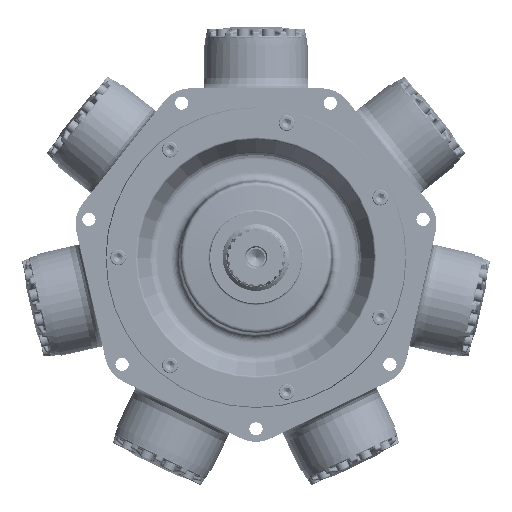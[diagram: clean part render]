
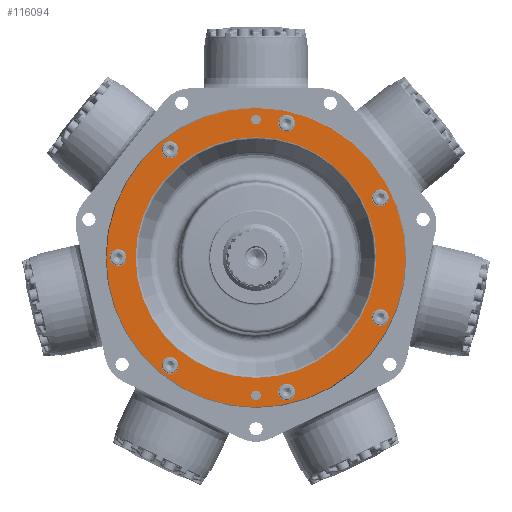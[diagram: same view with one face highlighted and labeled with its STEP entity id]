
A CAD part, top view. The second image highlights one B-rep face of the part: STEP entity #116094.
In plain terms, the highlighted planar face has unit normal (0, 0, 1).
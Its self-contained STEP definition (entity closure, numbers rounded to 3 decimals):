
#1834=FACE_BOUND('',#33305,.T.);
#1835=FACE_BOUND('',#33306,.T.);
#1836=FACE_BOUND('',#33307,.T.);
#1837=FACE_BOUND('',#33308,.T.);
#1838=FACE_BOUND('',#33309,.T.);
#1839=FACE_BOUND('',#33310,.T.);
#1840=FACE_BOUND('',#33311,.T.);
#1841=FACE_BOUND('',#33312,.T.);
#1842=FACE_BOUND('',#33313,.T.);
#1843=FACE_BOUND('',#33314,.T.);
#16722=PLANE('',#124275);
#20447=CIRCLE('',#124248,7.176);
#20449=CIRCLE('',#124251,7.176);
#20451=CIRCLE('',#124254,12.7);
#20453=CIRCLE('',#124257,12.7);
#20454=CIRCLE('',#124259,12.7);
#20456=CIRCLE('',#124262,12.7);
#20457=CIRCLE('',#124264,12.7);
#20458=CIRCLE('',#124266,12.7);
#20460=CIRCLE('',#124269,12.7);
#20461=CIRCLE('',#124271,227.279);
#20464=CIRCLE('',#124276,182.808);
#26218=FACE_OUTER_BOUND('',#33304,.T.);
#33304=EDGE_LOOP('',(#90139));
#33305=EDGE_LOOP('',(#90140));
#33306=EDGE_LOOP('',(#90141));
#33307=EDGE_LOOP('',(#90142));
#33308=EDGE_LOOP('',(#90143));
#33309=EDGE_LOOP('',(#90144));
#33310=EDGE_LOOP('',(#90145));
#33311=EDGE_LOOP('',(#90146));
#33312=EDGE_LOOP('',(#90147));
#33313=EDGE_LOOP('',(#90148));
#33314=EDGE_LOOP('',(#90149));
#47952=VERTEX_POINT('',#269193);
#47954=VERTEX_POINT('',#269199);
#47956=VERTEX_POINT('',#269205);
#47958=VERTEX_POINT('',#269211);
#47959=VERTEX_POINT('',#269215);
#47961=VERTEX_POINT('',#269221);
#47962=VERTEX_POINT('',#269225);
#47963=VERTEX_POINT('',#269229);
#47965=VERTEX_POINT('',#269235);
#47966=VERTEX_POINT('',#269239);
#47969=VERTEX_POINT('',#269249);
#62588=EDGE_CURVE('',#47952,#47952,#20447,.T.);
#62591=EDGE_CURVE('',#47954,#47954,#20449,.T.);
#62595=EDGE_CURVE('',#47956,#47956,#20451,.T.);
#62598=EDGE_CURVE('',#47958,#47958,#20453,.T.);
#62600=EDGE_CURVE('',#47959,#47959,#20454,.T.);
#62603=EDGE_CURVE('',#47961,#47961,#20456,.T.);
#62605=EDGE_CURVE('',#47962,#47962,#20457,.T.);
#62607=EDGE_CURVE('',#47963,#47963,#20458,.T.);
#62610=EDGE_CURVE('',#47965,#47965,#20460,.T.);
#62611=EDGE_CURVE('',#47966,#47966,#20461,.T.);
#62616=EDGE_CURVE('',#47969,#47969,#20464,.T.);
#90139=ORIENTED_EDGE('',*,*,#62611,.F.);
#90140=ORIENTED_EDGE('',*,*,#62588,.T.);
#90141=ORIENTED_EDGE('',*,*,#62591,.T.);
#90142=ORIENTED_EDGE('',*,*,#62595,.T.);
#90143=ORIENTED_EDGE('',*,*,#62598,.T.);
#90144=ORIENTED_EDGE('',*,*,#62600,.T.);
#90145=ORIENTED_EDGE('',*,*,#62603,.T.);
#90146=ORIENTED_EDGE('',*,*,#62605,.T.);
#90147=ORIENTED_EDGE('',*,*,#62607,.T.);
#90148=ORIENTED_EDGE('',*,*,#62610,.T.);
#90149=ORIENTED_EDGE('',*,*,#62616,.F.);
#116094=ADVANCED_FACE('',(#26218,#1834,#1835,#1836,#1837,#1838,#1839,#1840,
#1841,#1842,#1843),#16722,.T.);
#124248=AXIS2_PLACEMENT_3D('',#269194,#142045,#142046);
#124251=AXIS2_PLACEMENT_3D('',#269200,#142052,#142053);
#124254=AXIS2_PLACEMENT_3D('',#269207,#142060,#142061);
#124257=AXIS2_PLACEMENT_3D('',#269213,#142067,#142068);
#124259=AXIS2_PLACEMENT_3D('',#269217,#142072,#142073);
#124262=AXIS2_PLACEMENT_3D('',#269223,#142079,#142080);
#124264=AXIS2_PLACEMENT_3D('',#269227,#142084,#142085);
#124266=AXIS2_PLACEMENT_3D('',#269231,#142089,#142090);
#124269=AXIS2_PLACEMENT_3D('',#269237,#142096,#142097);
#124271=AXIS2_PLACEMENT_3D('',#269240,#142100,#142101);
#124275=AXIS2_PLACEMENT_3D('',#269248,#142110,#142111);
#124276=AXIS2_PLACEMENT_3D('',#269250,#142112,#142113);
#142045=DIRECTION('center_axis',(0.,0.,
-1.));
#142046=DIRECTION('ref_axis',(1.,0.,0.));
#142052=DIRECTION('center_axis',(0.,0.,
-1.));
#142053=DIRECTION('ref_axis',(1.,0.,0.));
#142060=DIRECTION('center_axis',(0.,0.,
-1.));
#142061=DIRECTION('ref_axis',(-0.623,0.782,0.));
#142067=DIRECTION('center_axis',(0.,0.,
-1.));
#142068=DIRECTION('ref_axis',(0.223,0.975,0.));
#142072=DIRECTION('center_axis',(0.,0.,
-1.));
#142073=DIRECTION('ref_axis',(0.901,0.434,0.));
#142079=DIRECTION('center_axis',(0.,0.,
-1.));
#142080=DIRECTION('ref_axis',(0.901,-0.434,0.));
#142084=DIRECTION('center_axis',(0.,0.,
-1.));
#142085=DIRECTION('ref_axis',(0.223,-0.975,0.));
#142089=DIRECTION('center_axis',(0.,0.,
-1.));
#142090=DIRECTION('ref_axis',(-0.623,-0.782,0.));
#142096=DIRECTION('center_axis',(0.,0.,
-1.));
#142097=DIRECTION('ref_axis',(-1.,0.,0.));
#142100=DIRECTION('center_axis',(0.,0.,
-1.));
#142101=DIRECTION('ref_axis',(0.,1.,0.));
#142110=DIRECTION('center_axis',(0.,0.,
1.));
#142111=DIRECTION('ref_axis',(0.,1.,0.));
#142112=DIRECTION('center_axis',(0.,0.,
1.));
#142113=DIRECTION('ref_axis',(1.,0.,0.));
#269193=CARTESIAN_POINT('',(-7.175,209.55,123.104));
#269194=CARTESIAN_POINT('Origin',(0.,209.55,123.104));
#269199=CARTESIAN_POINT('',(-7.176,-209.55,123.104));
#269200=CARTESIAN_POINT('Origin',(0.,-209.55,123.104));
#269205=CARTESIAN_POINT('',(-122.734,153.904,123.104));
#269207=CARTESIAN_POINT('Origin',(-130.652,163.833,123.104));
#269211=CARTESIAN_POINT('',(43.803,191.915,123.104));
#269213=CARTESIAN_POINT('Origin',(46.629,204.296,123.104));
#269215=CARTESIAN_POINT('',(177.356,85.41,123.104));
#269217=CARTESIAN_POINT('Origin',(188.798,90.92,123.104));
#269221=CARTESIAN_POINT('',(177.356,-85.41,123.104));
#269223=CARTESIAN_POINT('Origin',(188.798,-90.92,123.104));
#269225=CARTESIAN_POINT('',(43.803,-191.915,123.104));
#269227=CARTESIAN_POINT('Origin',(46.629,-204.296,123.104));
#269229=CARTESIAN_POINT('',(-122.734,-153.904,123.104));
#269231=CARTESIAN_POINT('Origin',(-130.652,-163.833,123.104));
#269235=CARTESIAN_POINT('',(-196.85,0.,123.104));
#269237=CARTESIAN_POINT('Origin',(-209.55,0.,123.104));
#269239=CARTESIAN_POINT('',(0.,-227.279,123.104));
#269240=CARTESIAN_POINT('Origin',(0.,0.,
123.104));
#269248=CARTESIAN_POINT('Origin',(-206.375,0.,123.104));
#269249=CARTESIAN_POINT('',(0.,-182.808,123.104));
#269250=CARTESIAN_POINT('Origin',(0.,0.,
123.104));
